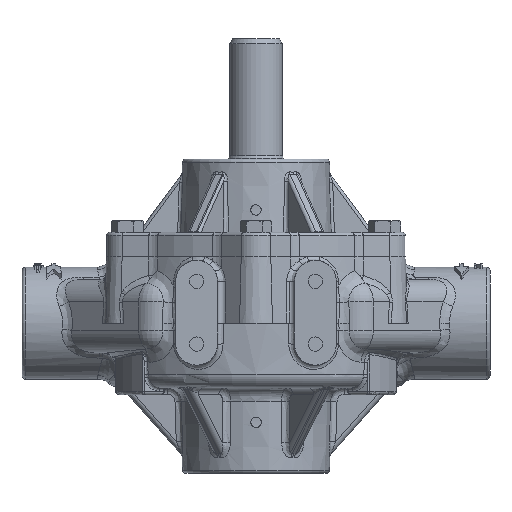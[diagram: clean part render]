
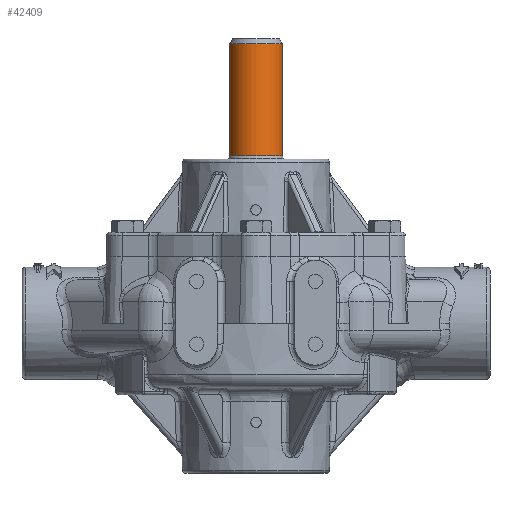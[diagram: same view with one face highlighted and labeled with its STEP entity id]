
A CAD part, front view. The second image highlights one B-rep face of the part: STEP entity #42409.
In plain terms, the highlighted cylindrical face has radius 11.9 mm (diameter 23.8 mm), a partial arc.
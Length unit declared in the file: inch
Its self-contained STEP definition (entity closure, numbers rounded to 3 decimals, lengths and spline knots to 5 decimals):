
#10065 = CARTESIAN_POINT ( 'NONE',  ( -0.4685, 0.2, 1.80672 ) ) ;
#10067 = CARTESIAN_POINT ( 'NONE',  ( 0.4685, 0.2, 1.80672 ) ) ;
#10276 = CARTESIAN_POINT ( 'NONE',  ( -0.4685, 0.2, 3.81237 ) ) ;
#10600 = CARTESIAN_POINT ( 'NONE',  ( 0.4685, 0.2, 3.81237 ) ) ;
#12158 = EDGE_LOOP ( 'NONE', ( #45902, #46859, #46439, #46307 ) ) ;
#17257 = AXIS2_PLACEMENT_3D ( 'NONE', #95882, #95880, #95864 ) ;
#26262 = CARTESIAN_POINT ( 'NONE',  ( 0.4685, 0.2, -3.6095 ) ) ;
#26291 = DIRECTION ( 'NONE',  ( 0., 0., -1. ) ) ;
#26667 = CARTESIAN_POINT ( 'NONE',  ( -0.4685, 0.2, -3.6095 ) ) ;
#26690 = DIRECTION ( 'NONE',  ( 0., 0., -1. ) ) ;
#28747 = FACE_OUTER_BOUND ( 'NONE', #12158, .T. ) ;
#28760 = CYLINDRICAL_SURFACE ( 'NONE', #17257, 0.4685 ) ;
#33067 = LINE ( 'NONE', #26262, #33071 ) ;
#33071 = VECTOR ( 'NONE', #26291, 39.37008 ) ;
#33152 = LINE ( 'NONE', #26667, #33156 ) ;
#33156 = VECTOR ( 'NONE', #26690, 39.37008 ) ;
#33594 = CIRCLE ( 'NONE', #109435, 0.4685 ) ;
#42409 = ADVANCED_FACE ( 'NONE', ( #28747 ), #28760, .T. ) ;
#45711 = CARTESIAN_POINT ( 'NONE',  ( 0., 0.2, 3.81237 ) ) ;
#45713 = DIRECTION ( 'NONE',  ( 0., 0., -1. ) ) ;
#45714 = DIRECTION ( 'NONE',  ( -1., 0., 0. ) ) ;
#45902 = ORIENTED_EDGE ( 'NONE', *, *, #86160, .F. ) ;
#46307 = ORIENTED_EDGE ( 'NONE', *, *, #71224, .F. ) ;
#46439 = ORIENTED_EDGE ( 'NONE', *, *, #86185, .T. ) ;
#46859 = ORIENTED_EDGE ( 'NONE', *, *, #86285, .T. ) ;
#52009 = CIRCLE ( 'NONE', #109239, 0.4685 ) ;
#55336 = CARTESIAN_POINT ( 'NONE',  ( 0., 0.2, 1.80672 ) ) ;
#55339 = DIRECTION ( 'NONE',  ( 0., 0., -1. ) ) ;
#55342 = DIRECTION ( 'NONE',  ( -1., 0., 0. ) ) ;
#71224 = EDGE_CURVE ( 'NONE', #78019, #78017, #52009, .T. ) ;
#78017 = VERTEX_POINT ( 'NONE', #10065 ) ;
#78019 = VERTEX_POINT ( 'NONE', #10067 ) ;
#78205 = VERTEX_POINT ( 'NONE', #10276 ) ;
#78518 = VERTEX_POINT ( 'NONE', #10600 ) ;
#86160 = EDGE_CURVE ( 'NONE', #78518, #78019, #33067, .T. ) ;
#86185 = EDGE_CURVE ( 'NONE', #78205, #78017, #33152, .T. ) ;
#86285 = EDGE_CURVE ( 'NONE', #78518, #78205, #33594, .T. ) ;
#95864 = DIRECTION ( 'NONE',  ( -1., 0., 0. ) ) ;
#95880 = DIRECTION ( 'NONE',  ( 0., 0., -1. ) ) ;
#95882 = CARTESIAN_POINT ( 'NONE',  ( 0., 0.2, -3.6095 ) ) ;
#109239 = AXIS2_PLACEMENT_3D ( 'NONE', #55336, #55339, #55342 ) ;
#109435 = AXIS2_PLACEMENT_3D ( 'NONE', #45711, #45713, #45714 ) ;
